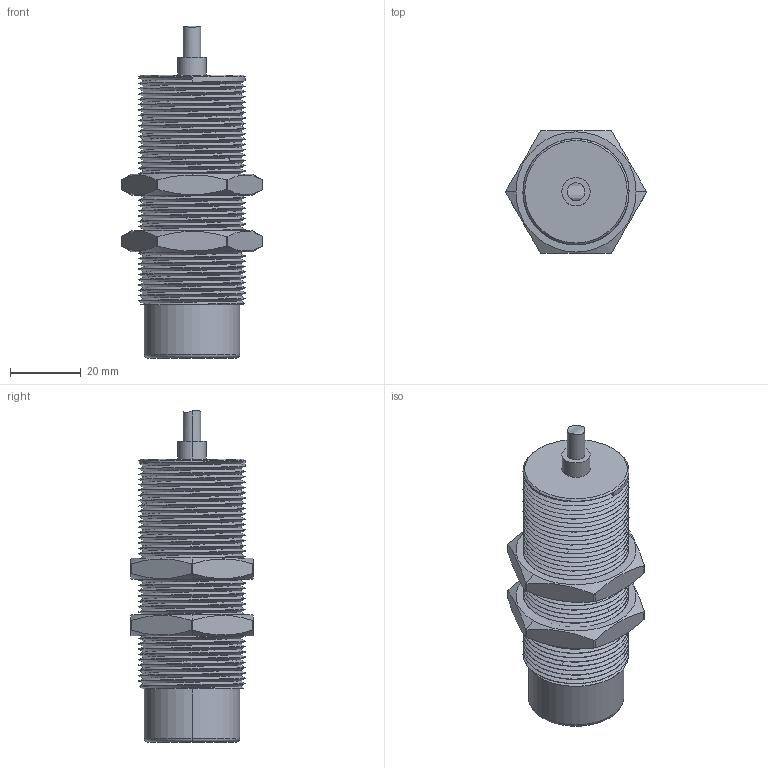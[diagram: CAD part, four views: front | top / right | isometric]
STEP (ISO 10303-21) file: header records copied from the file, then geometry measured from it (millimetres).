
FILE_DESCRIPTION((''),'2;1');
FILE_NAME('M30_MN_FQP_L80_ASM','2019-07-17T',('Administrator'),(''),'PRO/ENGINEER BY PARAMETRIC TECHNOLOGY CORPORATION, 2012130','PRO/ENGINEER BY PARAMETRIC TECHNOLOGY CORPORATION, 2012130','');
FILE_SCHEMA(('AUTOMOTIVE_DESIGN { 1 0 10303 214 1 1 1 1 }'));
Length unit declared in the file: millimetre
Products named in the file (3): M30_MN_FQP_L80; M30_LM; M30_MN_FQP_L80_ASM
Assembly tree (3 placements, depth 2):
  M30_MN_FQP_L80_ASM
    M30_MN_FQP_L80
    M30_LM  x2
Bounding box: 39.85 x 34.64 x 93.88 mm (x, y, z)
Volume: 56519.1 mm3; surface area: 18841.5 mm2
Topology: 3 solids, 3 shells, 180 faces, 499 edges, 328 vertices
Faces by surface type: cylinder 111, bspline 32, plane 23, cone 11, torus 2, extrusion 1
Entity records: 17702 total; most frequent: CARTESIAN_POINT 13154, ORIENTED_EDGE 832, DIRECTION 449, EDGE_CURVE 416, PRESENTATION_STYLE_ASSIGNMENT 339, STYLED_ITEM 334, CURVE_STYLE 333, VERTEX_POINT 273
